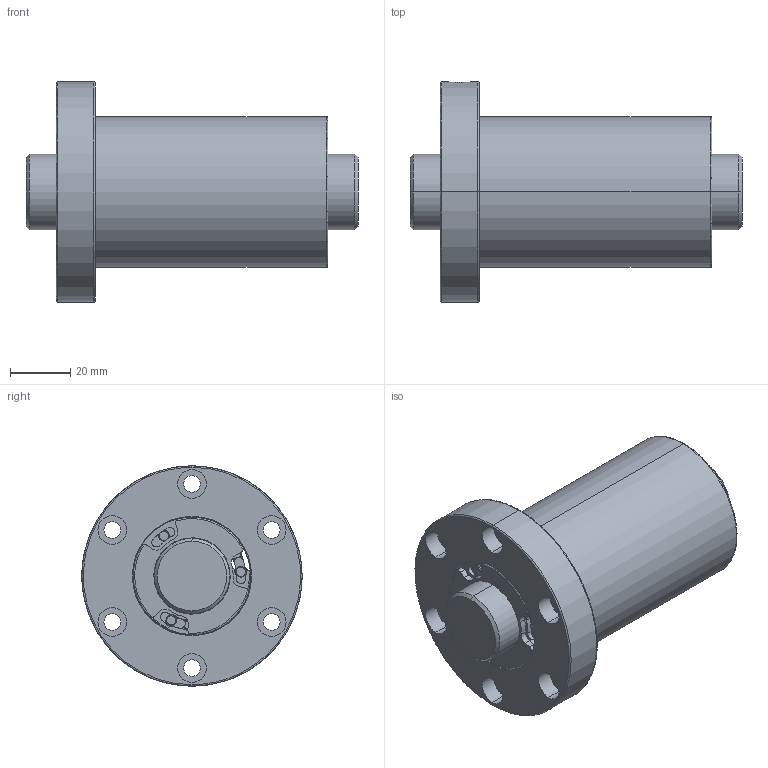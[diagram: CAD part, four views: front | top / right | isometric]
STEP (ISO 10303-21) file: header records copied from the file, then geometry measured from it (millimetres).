
FILE_DESCRIPTION (( 'STEP AP203' ), '1' );
FILE_NAME ('SFVSR02525B1N-C.STEP', '2020-06-17T05:12:29', ( '' ), ( '' ), 'SwSTEP 2.0', 'SolidWorks 2013', '' );
FILE_SCHEMA (( 'CONFIG_CONTROL_DESIGN' ));
Length unit declared in the file: millimetre
Products named in the file (1): SFVSR02525B1N-C
Bounding box: 110 x 73 x 73 mm (x, y, z)
Volume: 203628.8 mm3; surface area: 43978 mm2
Topology: 2 solids, 2 shells, 250 faces, 610 edges, 390 vertices
Faces by surface type: cylinder 144, plane 76, cone 16, bspline 14
Entity records: 8294 total; most frequent: CARTESIAN_POINT 2080, DIRECTION 1424, ORIENTED_EDGE 1220, EDGE_CURVE 610, AXIS2_PLACEMENT_3D 609, VERTEX_POINT 390, CIRCLE 372, EDGE_LOOP 294
